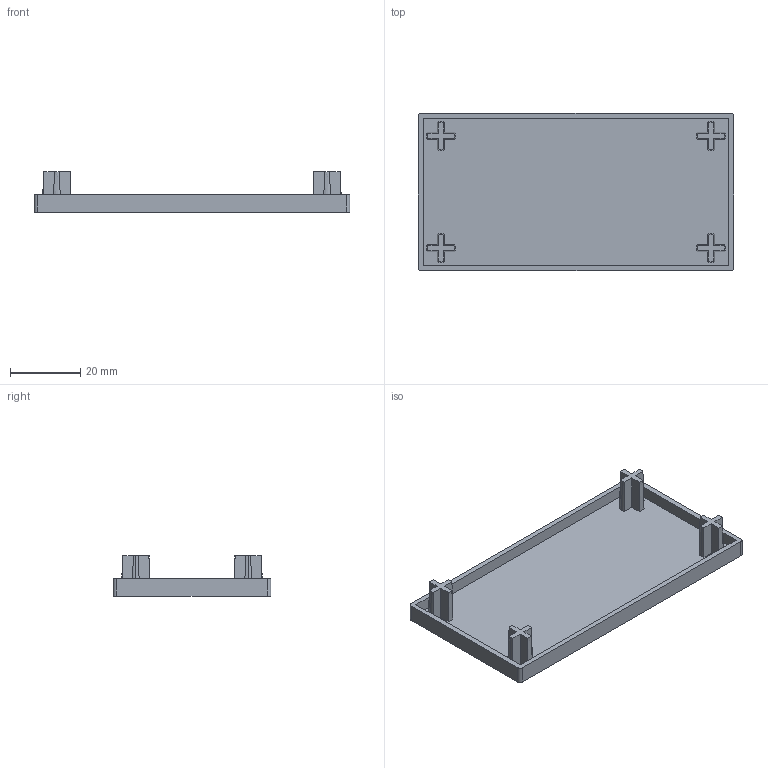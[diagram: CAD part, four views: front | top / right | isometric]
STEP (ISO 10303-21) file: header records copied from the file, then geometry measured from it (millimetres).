
FILE_DESCRIPTION (( 'STEP AP203' ), '1' );
FILE_NAME ('EC4590-8.STEP', '2024-02-19T05:57:53', ( '' ), ( '' ), 'SwSTEP 2.0', 'SolidWorks 2022', '' );
FILE_SCHEMA (( 'CONFIG_CONTROL_DESIGN' ));
Length unit declared in the file: millimetre
Products named in the file (1): EC4590-8
Bounding box: 90 x 45 x 11.5 mm (x, y, z)
Volume: 8426.8 mm3; surface area: 11538.8 mm2
Topology: 1 solids, 1 shells, 71 faces, 192 edges, 128 vertices
Faces by surface type: plane 47, cone 20, cylinder 4
Entity records: 2439 total; most frequent: CARTESIAN_POINT 584, ORIENTED_EDGE 384, DIRECTION 352, EDGE_CURVE 192, VERTEX_POINT 128, AXIS2_PLACEMENT_3D 120, LINE 112, VECTOR 112
